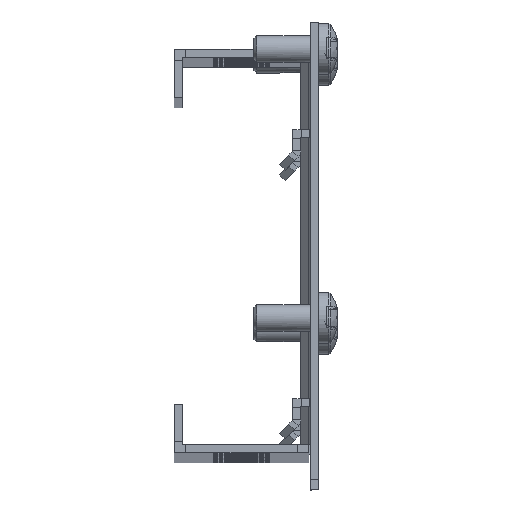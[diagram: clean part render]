
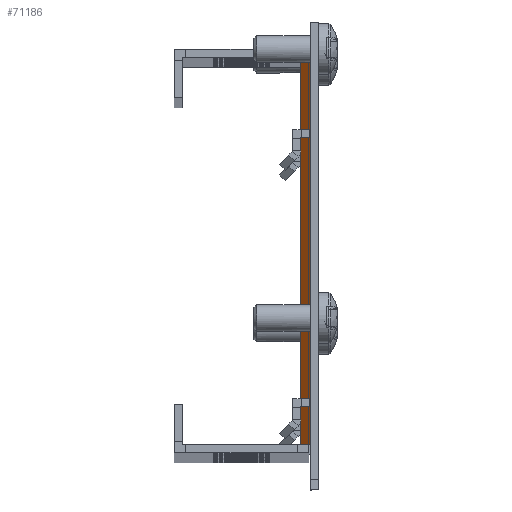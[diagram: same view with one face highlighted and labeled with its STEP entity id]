
A CAD part, top view. The second image highlights one B-rep face of the part: STEP entity #71186.
In plain terms, the highlighted planar face has unit normal (-0.707, 0, 0.707) as drawn and (-0.707, 0, -0.707) by its records, which use the part's own axes.
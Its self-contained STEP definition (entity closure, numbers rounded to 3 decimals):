
#47633 = VERTEX_POINT('',#47634);
#47634 = CARTESIAN_POINT('',(-541.87,-36.,-1.5));
#47640 = EDGE_CURVE('',#47641,#47633,#47643,.T.);
#47641 = VERTEX_POINT('',#47642);
#47642 = CARTESIAN_POINT('',(-541.87,36.,-1.5));
#47643 = LINE('',#47644,#47645);
#47644 = CARTESIAN_POINT('',(-541.87,0.,-1.5));
#47645 = VECTOR('',#47646,1.);
#47646 = DIRECTION('',(0.,-1.,0.));
#70843 = VERTEX_POINT('',#70844);
#70844 = CARTESIAN_POINT('',(-543.672,36.,0.302));
#70850 = EDGE_CURVE('',#70851,#70843,#70853,.T.);
#70851 = VERTEX_POINT('',#70852);
#70852 = CARTESIAN_POINT('',(-543.672,-36.,0.302));
#70853 = LINE('',#70854,#70855);
#70854 = CARTESIAN_POINT('',(-543.672,0.,
    0.302));
#70855 = VECTOR('',#70856,1.);
#70856 = DIRECTION('',(0.,1.,0.));
#71055 = VERTEX_POINT('',#71056);
#71056 = CARTESIAN_POINT('',(-542.485,36.,-0.885));
#71076 = EDGE_CURVE('',#71055,#47641,#71077,.T.);
#71077 = LINE('',#71078,#71079);
#71078 = CARTESIAN_POINT('',(-542.485,36.,-0.885));
#71079 = VECTOR('',#71080,1.);
#71080 = DIRECTION('',(0.707,0.,-0.707));
#71100 = VERTEX_POINT('',#71101);
#71101 = CARTESIAN_POINT('',(-542.485,-36.,-0.885));
#71107 = EDGE_CURVE('',#71100,#47633,#71108,.T.);
#71108 = LINE('',#71109,#71110);
#71109 = CARTESIAN_POINT('',(-271.809,-36.,-271.561));
#71110 = VECTOR('',#71111,1.);
#71111 = DIRECTION('',(0.707,-0.,-0.707));
#71138 = VERTEX_POINT('',#71139);
#71139 = CARTESIAN_POINT('',(-543.496,-36.,0.126));
#71145 = EDGE_CURVE('',#71100,#71138,#71146,.T.);
#71146 = LINE('',#71147,#71148);
#71147 = CARTESIAN_POINT('',(-271.809,-36.,-271.561));
#71148 = VECTOR('',#71149,1.);
#71149 = DIRECTION('',(-0.707,0.,0.707));
#71160 = EDGE_CURVE('',#71161,#71055,#71163,.T.);
#71161 = VERTEX_POINT('',#71162);
#71162 = CARTESIAN_POINT('',(-543.496,36.,0.126));
#71163 = LINE('',#71164,#71165);
#71164 = CARTESIAN_POINT('',(-271.809,36.,-271.561));
#71165 = VECTOR('',#71166,1.);
#71166 = DIRECTION('',(0.707,0.,-0.707));
#71186 = ADVANCED_FACE('',(#71187),#71207,.F.);
#71187 = FACE_BOUND('',#71188,.T.);
#71188 = EDGE_LOOP('',(#71189,#71190,#71191,#71192,#71193,#71194,#71200,
    #71201));
#71189 = ORIENTED_EDGE('',*,*,#71160,.T.);
#71190 = ORIENTED_EDGE('',*,*,#71076,.T.);
#71191 = ORIENTED_EDGE('',*,*,#47640,.T.);
#71192 = ORIENTED_EDGE('',*,*,#71107,.F.);
#71193 = ORIENTED_EDGE('',*,*,#71145,.T.);
#71194 = ORIENTED_EDGE('',*,*,#71195,.T.);
#71195 = EDGE_CURVE('',#71138,#70851,#71196,.T.);
#71196 = LINE('',#71197,#71198);
#71197 = CARTESIAN_POINT('',(-543.496,-36.,0.126));
#71198 = VECTOR('',#71199,1.);
#71199 = DIRECTION('',(-0.707,0.,0.707));
#71200 = ORIENTED_EDGE('',*,*,#70850,.T.);
#71201 = ORIENTED_EDGE('',*,*,#71202,.F.);
#71202 = EDGE_CURVE('',#71161,#70843,#71203,.T.);
#71203 = LINE('',#71204,#71205);
#71204 = CARTESIAN_POINT('',(-271.809,36.,-271.561));
#71205 = VECTOR('',#71206,1.);
#71206 = DIRECTION('',(-0.707,-0.,0.707));
#71207 = PLANE('',#71208);
#71208 = AXIS2_PLACEMENT_3D('',#71209,#71210,#71211);
#71209 = CARTESIAN_POINT('',(-271.809,0.,
    -271.561));
#71210 = DIRECTION('',(0.707,0.,0.707)
  );
#71211 = DIRECTION('',(0.707,0.,-0.707));
